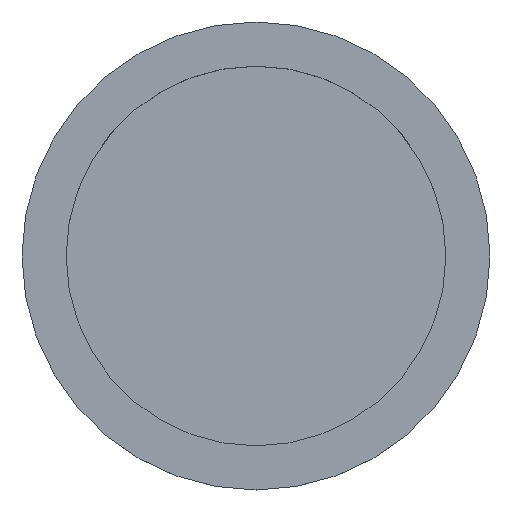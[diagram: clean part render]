
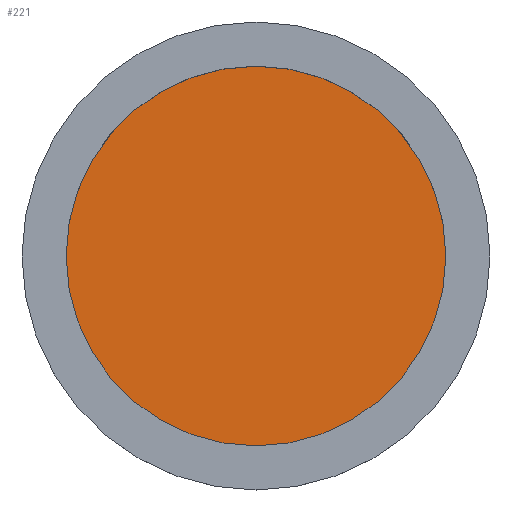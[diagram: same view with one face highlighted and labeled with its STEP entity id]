
A CAD part, top view. The second image highlights one B-rep face of the part: STEP entity #221.
In plain terms, the highlighted planar face has unit normal (0, 0, 1).
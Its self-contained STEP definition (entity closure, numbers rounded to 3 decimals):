
#190=CARTESIAN_POINT('',(92.5,0.,8.));
#191=VERTEX_POINT('',#190);
#192=CARTESIAN_POINT('',(0.0,0.0,8.));
#193=DIRECTION('',(0.0,0.0,1.0));
#194=DIRECTION('',(-1.0,0.0,0.0));
#195=AXIS2_PLACEMENT_3D('',#192,#193,#194);
#196=CIRCLE('',#195,92.5);
#197=EDGE_CURVE('',#191,#191,#196,.T.);
#213=CARTESIAN_POINT('',(0.0,0.0,8.));
#214=DIRECTION('',(0.0,0.0,-1.0));
#215=DIRECTION('',(-1.0,0.0,0.0));
#216=AXIS2_PLACEMENT_3D('',#213,#214,#215);
#217=PLANE('',#216);
#218=ORIENTED_EDGE('',*,*,#197,.T.);
#219=EDGE_LOOP('',(#218));
#220=FACE_OUTER_BOUND('',#219,.T.);
#221=ADVANCED_FACE('',(#220),#217,.F.);
